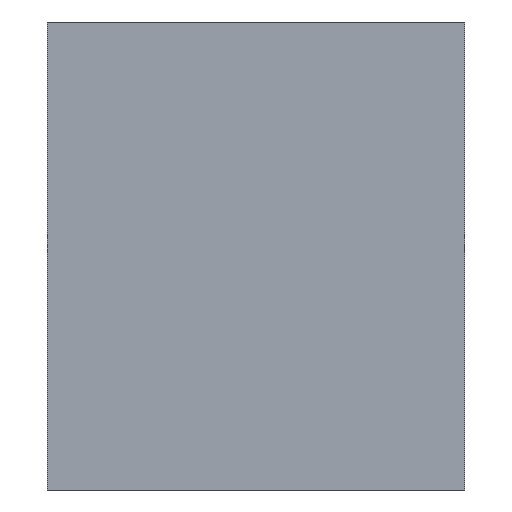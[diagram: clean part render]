
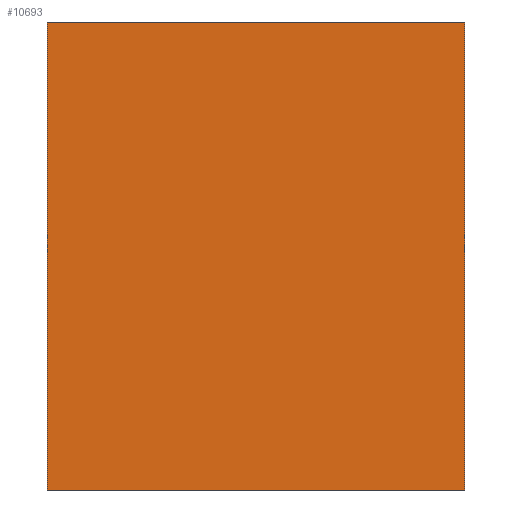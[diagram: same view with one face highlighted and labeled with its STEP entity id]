
A CAD part, front view. The second image highlights one B-rep face of the part: STEP entity #10693.
In plain terms, the highlighted planar face has unit normal (0, -1, 0).
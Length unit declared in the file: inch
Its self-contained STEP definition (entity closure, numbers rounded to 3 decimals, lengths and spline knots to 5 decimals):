
#281 = EDGE_CURVE ( 'NONE', #7940, #6536, #3315, .T. ) ;
#296 = EDGE_CURVE ( 'NONE', #4946, #6536, #10530, .T. ) ;
#526 = ORIENTED_EDGE ( 'NONE', *, *, #296, .F. ) ;
#623 = LINE ( 'NONE', #5799, #4905 ) ;
#834 = EDGE_CURVE ( 'NONE', #8137, #4946, #4728, .T. ) ;
#1033 = VECTOR ( 'NONE', #5945, 39.37008 ) ;
#1465 = DIRECTION ( 'NONE',  ( 0., 0., -1. ) ) ;
#1466 = CARTESIAN_POINT ( 'NONE',  ( 6.25, 0., 0. ) ) ;
#1885 = EDGE_LOOP ( 'NONE', ( #2932, #526, #6178, #8725 ) ) ;
#2782 = FACE_OUTER_BOUND ( 'NONE', #1885, .T. ) ;
#2932 = ORIENTED_EDGE ( 'NONE', *, *, #281, .T. ) ;
#3175 = DIRECTION ( 'NONE',  ( 0., 0., 1. ) ) ;
#3315 = LINE ( 'NONE', #6032, #8190 ) ;
#3366 = DIRECTION ( 'NONE',  ( 0., 1., 0. ) ) ;
#3398 = CARTESIAN_POINT ( 'NONE',  ( 6.25, 0., 0. ) ) ;
#3656 = PLANE ( 'NONE',  #7226 ) ;
#3926 = CARTESIAN_POINT ( 'NONE',  ( 6.25, 0., -7. ) ) ;
#4728 = LINE ( 'NONE', #1466, #9467 ) ;
#4905 = VECTOR ( 'NONE', #6355, 39.37008 ) ;
#4946 = VERTEX_POINT ( 'NONE', #3926 ) ;
#5799 = CARTESIAN_POINT ( 'NONE',  ( 6.25, 0., 0. ) ) ;
#5945 = DIRECTION ( 'NONE',  ( -1., 0., 0. ) ) ;
#5974 = CARTESIAN_POINT ( 'NONE',  ( 6.25, 0., -7. ) ) ;
#6024 = EDGE_CURVE ( 'NONE', #8137, #7940, #623, .T. ) ;
#6027 = DIRECTION ( 'NONE',  ( 0., 0., -1. ) ) ;
#6032 = CARTESIAN_POINT ( 'NONE',  ( 0., 0., 0. ) ) ;
#6178 = ORIENTED_EDGE ( 'NONE', *, *, #834, .F. ) ;
#6262 = CARTESIAN_POINT ( 'NONE',  ( 6.25, 0., 0. ) ) ;
#6355 = DIRECTION ( 'NONE',  ( -1., 0., 0. ) ) ;
#6536 = VERTEX_POINT ( 'NONE', #10362 ) ;
#7226 = AXIS2_PLACEMENT_3D ( 'NONE', #3398, #3366, #3175 ) ;
#7940 = VERTEX_POINT ( 'NONE', #9772 ) ;
#8137 = VERTEX_POINT ( 'NONE', #6262 ) ;
#8190 = VECTOR ( 'NONE', #6027, 39.37008 ) ;
#8725 = ORIENTED_EDGE ( 'NONE', *, *, #6024, .T. ) ;
#9467 = VECTOR ( 'NONE', #1465, 39.37008 ) ;
#9772 = CARTESIAN_POINT ( 'NONE',  ( 0., 0., 0. ) ) ;
#10362 = CARTESIAN_POINT ( 'NONE',  ( 0., 0., -7. ) ) ;
#10530 = LINE ( 'NONE', #5974, #1033 ) ;
#10693 = ADVANCED_FACE ( 'NONE', ( #2782 ), #3656, .F. ) ;
